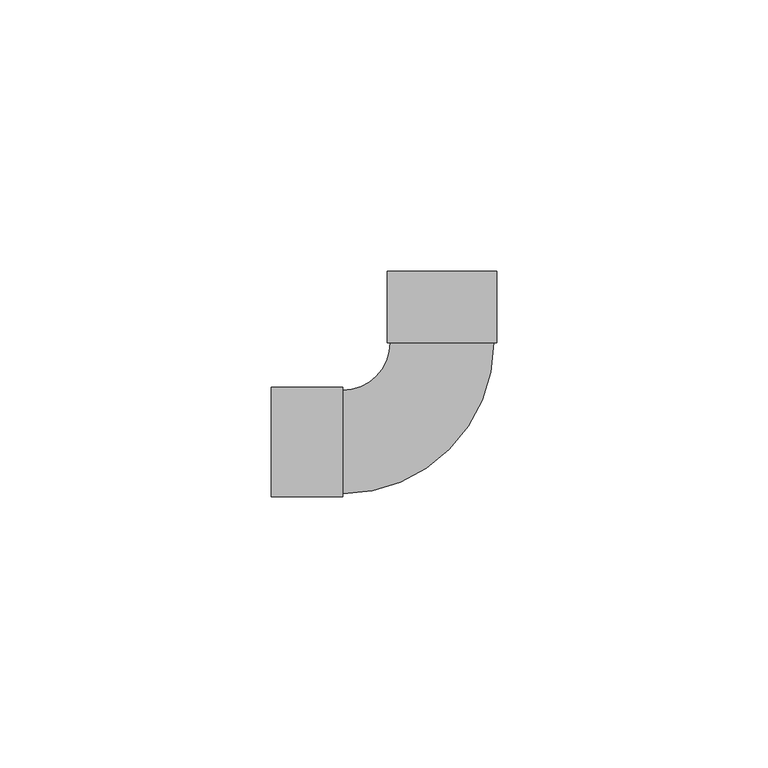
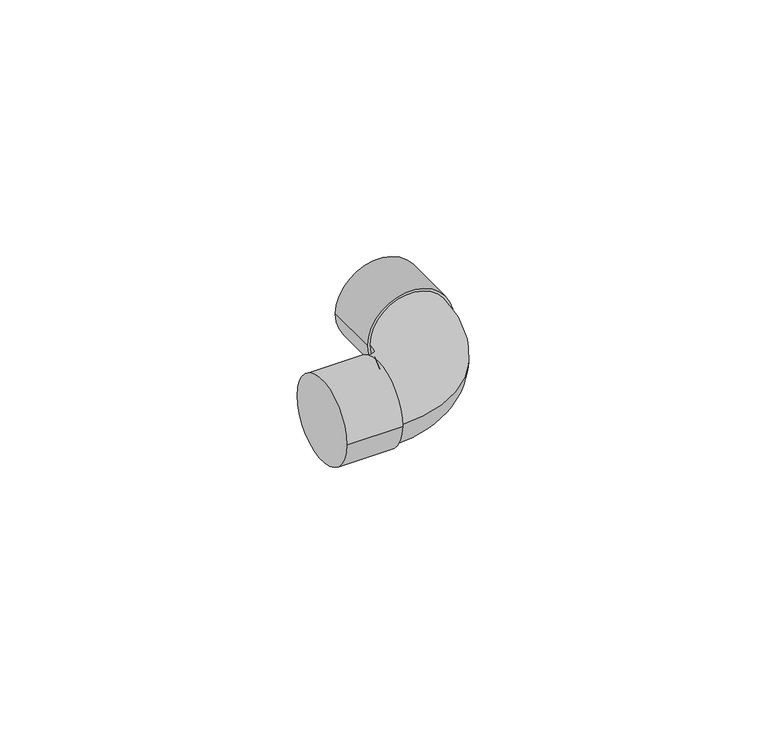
"""IFC4 building model written with IfcOpenShell, lengths in millimetres: pipe fitting geometry, Cotovelo - Soldado - CU : Padrão."""

from ifc_helpers import new_model, si_unit, point, frame, origin, place, context, project, spatial, circle_curve, ellipse_curve, trimmed, source, transform, mapped, element, save
from ifc_brep_helpers import plane_surface, cylinder_surface, revolved_surface, advanced_brep


def pipe_fitting_fcb7d889(model_context):
    return source(origin(), model_context, "Body", "AdvancedBrep", [
        advanced_brep(
        [(-9.5247367, 18.305637, 0.0), (-18.3055, 9.525, 0.0), (-18.3055, -9.525, 0.0), (9.5252633, 18.305363, 0.0), (-31.459, -10.1155, 0.0), (-31.459, 10.1155, 0.0), (-18.3055, -10.1155, 0.0), (-18.3055, 10.1155, 0.0), (-10.1150475, 31.4591455, 0.0), (10.1159525, 31.4588545, 0.0), (-10.1152367, 18.3056455, 0.0), (10.1157633, 18.3053545, 0.0)],
        [
            (0, 1, circle_curve(frame((-18.3055, 18.3057633, 0.0), z_axis=(0.0, 0.0, -1.0), x_axis=(0.0, -1.0, 0.0)), 8.7807633)),
            (1, 2, circle_curve(frame((-18.3055, 0.0, 0.0), z_axis=(1.0, 0.0, 0.0), x_axis=(0.0, 1.0, 0.0)), 9.525)),
            (2, 3, circle_curve(frame((-18.3055, 18.3057633, 0.0), z_axis=(0.0, 0.0, 1.0), x_axis=(0.0, -1.0, 0.0)), 27.8307633)),
            (3, 0, circle_curve(frame((0.0002633, 18.3055, 0.0), z_axis=(-1.438451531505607e-05, -0.9999999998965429, 0.0), x_axis=(-0.9999999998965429, 1.438451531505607e-05, 0.0)), 9.525)),
            (0, 3, circle_curve(frame((0.0002633, 18.3055, 0.0), z_axis=(-1.438451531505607e-05, -0.9999999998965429, 0.0), x_axis=(-0.9999999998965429, 1.438451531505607e-05, 0.0)), 9.525)),
            (2, 1, circle_curve(frame((-18.3055, 0.0, 0.0), z_axis=(1.0, 0.0, 0.0), x_axis=(0.0, 1.0, 0.0)), 9.525)),
            (4, 5, circle_curve(frame((-31.459, 0.0, 0.0), z_axis=(-1.0, 0.0, 0.0), x_axis=(0.0, 1.0, 0.0)), 10.1155)),
            (5, 4, circle_curve(frame((-31.459, 0.0, 0.0), z_axis=(-1.0, 0.0, 0.0), x_axis=(0.0, 1.0, 0.0)), 10.1155)),
            (6, 7, circle_curve(frame((-18.3055, 0.0, 0.0), z_axis=(1.0, 0.0, 0.0), x_axis=(0.0, 1.0, 0.0)), 10.1155)),
            (7, 6, circle_curve(frame((-18.3055, 0.0, 0.0), z_axis=(1.0, 0.0, 0.0), x_axis=(0.0, 1.0, 0.0)), 10.1155)),
            (4, 6),
            (7, 5),
            (8, 9, circle_curve(frame((0.0004525, 31.459, 0.0), z_axis=(1.4384515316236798e-05, 0.9999999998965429, 0.0), x_axis=(0.9999999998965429, -1.4384515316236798e-05, 0.0)), 10.1155)),
            (9, 8, circle_curve(frame((0.0004525, 31.459, 0.0), z_axis=(1.4384515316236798e-05, 0.9999999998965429, 0.0), x_axis=(0.9999999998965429, -1.4384515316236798e-05, 0.0)), 10.1155)),
            (10, 11, circle_curve(frame((0.0002633, 18.3055, 0.0), z_axis=(-1.4384515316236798e-05, -0.9999999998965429, 0.0), x_axis=(0.9999999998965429, -1.4384515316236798e-05, 0.0)), 10.1155)),
            (11, 10, circle_curve(frame((0.0002633, 18.3055, 0.0), z_axis=(-1.4384515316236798e-05, -0.9999999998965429, 0.0), x_axis=(0.9999999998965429, -1.4384515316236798e-05, 0.0)), 10.1155)),
            (8, 10),
            (11, 9),
        ],
        [
            revolved_surface(trimmed(ellipse_curve(frame((-18.3055, 0.0, 0.0), z_axis=(-1.0, 0.0, 0.0), x_axis=(0.0, 1.0, 0.0)), 9.525, 9.525), [point((-18.3055, -9.525, 0.0))], [point((-18.3055, 9.525, 0.0))], True, "CARTESIAN"), (-18.3055, 18.3057633, 0.0), (0.0, 0.0, 1.0)),
            revolved_surface(trimmed(ellipse_curve(frame((-18.3055, 0.0, 0.0), z_axis=(-1.0, 0.0, 0.0), x_axis=(0.0, 1.0, 0.0)), 9.525, 9.525), [point((-18.3055, 9.525, 0.0))], [point((-18.3055, -9.525, 0.0))], True, "CARTESIAN"), (-18.3055, 18.3057633, 0.0), (0.0, 0.0, 1.0)),
            plane_surface(frame((-31.459, 0.0, 0.0), z_axis=(-1.0, 0.0, 0.0), x_axis=(0.0, 0.0, 1.0))),
            plane_surface(frame((-18.3055, 0.0, 0.0), z_axis=(1.0, 0.0, 0.0), x_axis=(0.0, 0.0, 1.0))),
            cylinder_surface(frame((-31.459, 0.0, 0.0), z_axis=(-1.0, 0.0, 0.0), x_axis=(0.0, 1.0, 0.0)), 10.1155),
            plane_surface(frame((0.0004525, 31.459, 0.0), z_axis=(1.4384515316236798e-05, 0.9999999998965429, 0.0), x_axis=(0.0, 0.0, 1.0))),
            plane_surface(frame((0.0002633, 18.3055, 0.0), z_axis=(-1.4384515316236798e-05, -0.9999999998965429, 0.0), x_axis=(0.0, 0.0, 1.0))),
            cylinder_surface(frame((0.0004525, 31.459, 0.0), z_axis=(1.4384515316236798e-05, 0.9999999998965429, 0.0), x_axis=(0.9999999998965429, -1.4384515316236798e-05, 0.0)), 10.1155),
        ],
        [
            (0, [[1, 2, 3, 4]]),
            (1, [[-1, 5, -3, 6]]),
            (2, [[7, 8]]),
            (3, [[9, 10], [-2, -6]]),
            (4, [[-7, 11, -10, 12]]),
            (4, [[-8, -12, -9, -11]]),
            (5, [[13, 14]]),
            (6, [[15, 16], [-4, -5]]),
            (7, [[-13, 17, -16, 18]]),
            (7, [[-14, -18, -15, -17]]),
        ],
    ),
    ])


if __name__ == "__main__":
    model = new_model("IFC4")
    model_context = context("Model", 3, world=origin())
    ifc_project = project(units=[si_unit("LENGTHUNIT", "METRE", prefix="MILLI")], contexts=[model_context])
    site = spatial("IfcSite", under=ifc_project)
    building = spatial("IfcBuilding", under=site)
    placement = place(None, origin())
    pipe_fitting_shape = pipe_fitting_fcb7d889(model_context)
    element("IfcPipeFitting", 1, ObjectType="Cotovelo - Soldado - CU : Padrão", at=placement, inside=building, context=model_context, shape_type="MappedRepresentation", body=[
        mapped(pipe_fitting_shape, transform((0.0, 0.0, 0.0), x_axis=(1.0, 0.0, 0.0), y_axis=(0.0, 1.0, 0.0), z_axis=(0.0, 0.0, 1.0))),
    ])
    save(model, "model.ifc")
